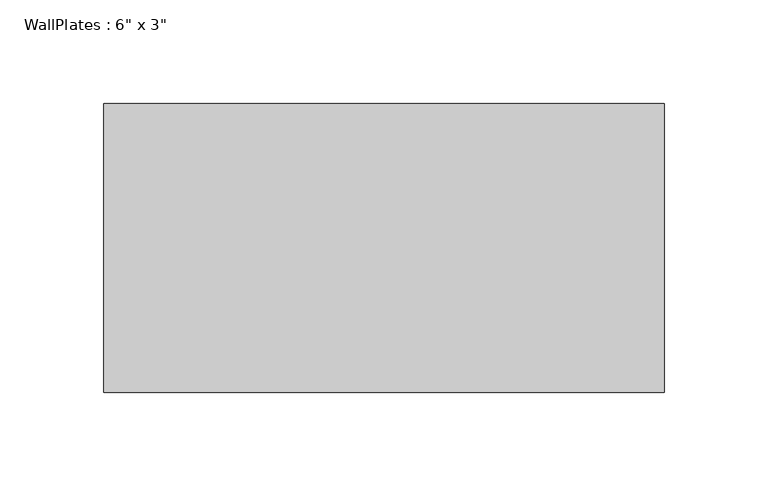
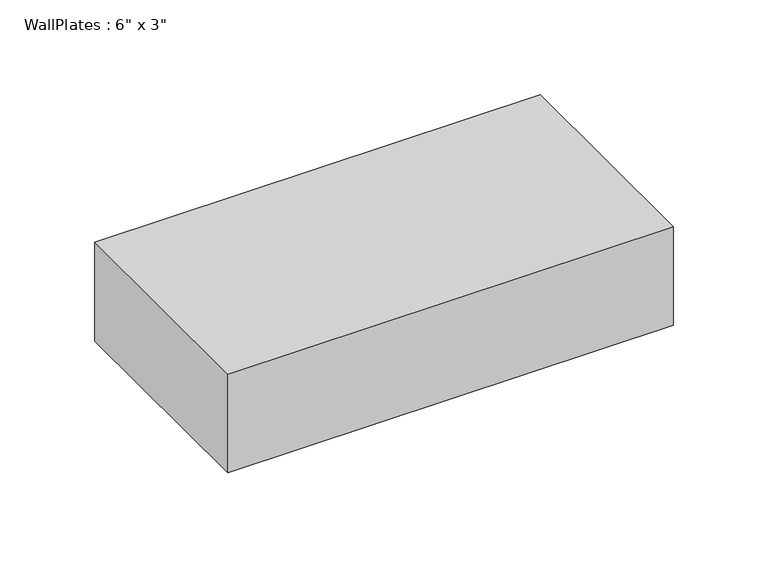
"""IFC4 building model written with IfcOpenShell, lengths in millimetres: beam geometry."""

from ifc_helpers import new_model, si_unit, frame, origin, place, context, project, spatial, polyline, outline, extrude, source, transform, mapped, element, save


def beam_e56b1697(model_context):
    return source(origin(), model_context, "Body", "SweptSolid", [
        extrude(outline(polyline([(-135.466667, -69.85), (-135.466667, 69.85), (135.466667, 69.85), (135.466667, -69.85), (-135.466667, -69.85)])), frame((0.0, 0.0, -31.75), z_axis=(0.0, 0.0, 1.0), x_axis=(1.0, 0.0, 0.0)), (0.0, 0.0, 1.0), 63.5),
    ])


if __name__ == "__main__":
    model = new_model("IFC4")
    model_context = context("Model", 3, world=origin())
    ifc_project = project(units=[si_unit("LENGTHUNIT", "METRE", prefix="MILLI")], contexts=[model_context])
    site = spatial("IfcSite", under=ifc_project)
    building = spatial("IfcBuilding", under=site)
    placement = place(None, origin())
    beam_shape = beam_e56b1697(model_context)
    element("IfcBeam", 1, ObjectType="WallPlates : 6\" x 3\"", at=placement, inside=building, context=model_context, shape_type="MappedRepresentation", body=[
        mapped(beam_shape, transform((0.0, 0.0, 0.0), x_axis=(1.0, 0.0, 0.0), y_axis=(0.0, 1.0, 0.0), z_axis=(0.0, 0.0, 1.0))),
    ])
    save(model, "model.ifc")
